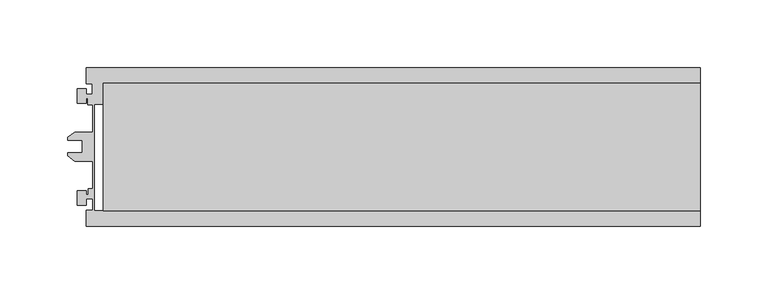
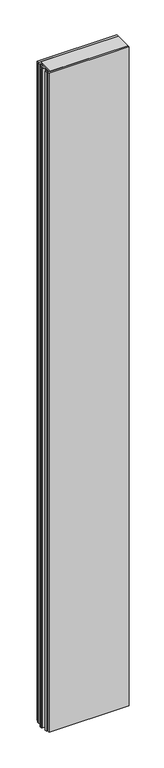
"""IFC4 building model written with IfcOpenShell, lengths in millimetres: plate geometry, Walls_External-Walls_Danpal_Danpatherm-K12 : Walls_External-Walls_Danpal_Danpatherm-K12."""

from ifc_helpers import new_model, si_unit, frame, origin, place, context, project, spatial, polyline, outline, extrude, source, transform, mapped, element, save


def plate_14fe3c05(model_context):
    return source(origin(), model_context, "Body", "SweptSolid", [
        extrude(outline(polyline([(-214.5547649, -105.9), (-214.5547649, -11.5), (227.1941287, -11.5), (227.1941287, -105.9), (-214.5547649, -105.9)])), frame((0.0, 0.0, -29.0), z_axis=(0.0, 0.0, 1.0), x_axis=(1.0, 0.0, 0.0)), (0.0, 0.0, 1.0), 3952.2118076),
        extrude(outline(polyline([(-227.1941287, -117.4), (-227.1941287, -105.4), (-222.0941287, -105.4), (-222.0941287, -97.0749648), (-227.1467603, -97.0749648), (-227.1467603, -101.6302279), (-233.5941287, -101.6302279), (-233.5941287, -91.0381227), (-227.2068842, -91.0381227), (-227.2068842, -94.0775963), (-225.6941252, -94.0775963), (-225.6941252, -89.4749648), (-222.0941287, -89.4749648), (-222.0941287, -69.2982521), (-235.4656215, -69.2982521), (-240.8541339, -65.3713202), (-240.8541339, -63.1232521), (-230.0208005, -63.1232521), (-230.0208005, -53.8499188), (-240.8541339, -53.8499188), (-240.8541339, -51.6018507), (-235.4656215, -47.6749188), (-222.3941287, -47.6749188), (-222.3941287, -27.4235008), (-226.1014717, -27.4235008), (-226.1014717, -22.8208692), (-227.1941287, -22.8208692), (-227.1941287, -26.3618773), (-233.5813732, -26.3618773), (-233.5813732, -15.7697721), (-227.1340047, -15.7697721), (-227.1340047, -19.8235008), (-222.5014751, -19.8235008), (-222.5014751, -12.0), (-227.1941287, -12.0), (-227.1941287, 0.0), (227.1941287, 0.0), (227.1941287, -11.5), (-214.5547649, -11.5), (-214.5547649, -27.0), (-221.1393459, -27.0), (-221.1393459, -105.9), (227.1941287, -105.9), (227.1941287, -117.4), (-227.1941287, -117.4)])), frame((0.0, 0.0, -29.0), z_axis=(0.0, 0.0, 1.0), x_axis=(1.0, 0.0, 0.0)), (0.0, 0.0, 1.0), 3952.2118076),
    ])


if __name__ == "__main__":
    model = new_model("IFC4")
    model_context = context("Model", 3, world=origin())
    ifc_project = project(units=[si_unit("LENGTHUNIT", "METRE", prefix="MILLI")], contexts=[model_context])
    site = spatial("IfcSite", under=ifc_project)
    building = spatial("IfcBuilding", under=site)
    placement = place(None, origin())
    plate_shape = plate_14fe3c05(model_context)
    element("IfcPlate", 1, ObjectType="Walls_External-Walls_Danpal_Danpatherm-K12 : Walls_External-Walls_Danpal_Danpatherm-K12", at=placement, inside=building, context=model_context, shape_type="MappedRepresentation", body=[
        mapped(plate_shape, transform((0.0, 0.0, 0.0), x_axis=(1.0, 0.0, 0.0), y_axis=(0.0, 1.0, 0.0), z_axis=(0.0, 0.0, 1.0))),
    ])
    save(model, "model.ifc")
